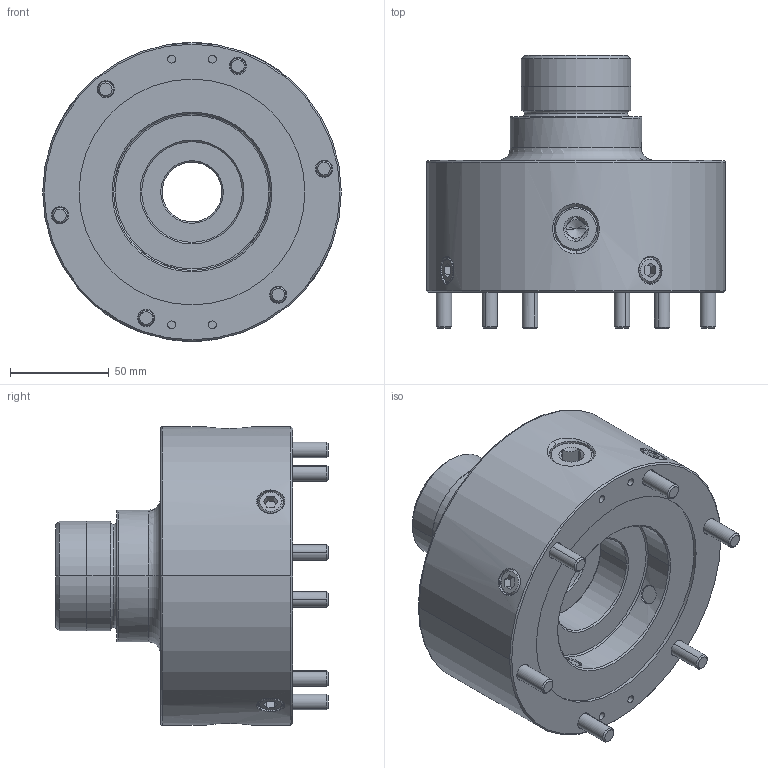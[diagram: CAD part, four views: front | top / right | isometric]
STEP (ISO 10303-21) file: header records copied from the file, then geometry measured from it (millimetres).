
FILE_DESCRIPTION (( 'STEP AP214' ), '1' );
FILE_NAME ('72125-2.STEP', '2023-12-20T18:30:03', ( '' ), ( '' ), 'SwSTEP 2.0', 'SolidWorks 2022', '' );
FILE_SCHEMA (( 'AUTOMOTIVE_DESIGN' ));
Length unit declared in the file: inch
Products named in the file (2): 72125-2
Assembly tree (1 placements, depth 2):
  72125-2
    72125-2
Bounding box: 151.13 x 138.13 x 151.13 mm (x, y, z)
Volume: 1135487.7 mm3; surface area: 122716 mm2
Topology: 1 solids, 20 shells, 1053 faces, 2777 edges, 1795 vertices
Faces by surface type: cylinder 427, plane 362, cone 132, bspline 67, torus 65
Entity records: 47110 total; most frequent: CARTESIAN_POINT 10355, DIRECTION 5581, ORIENTED_EDGE 5522, EDGE_CURVE 2761, AXIS2_PLACEMENT_3D 2197, VERTEX_POINT 1795, CIRCLE 1207, LINE 1187
